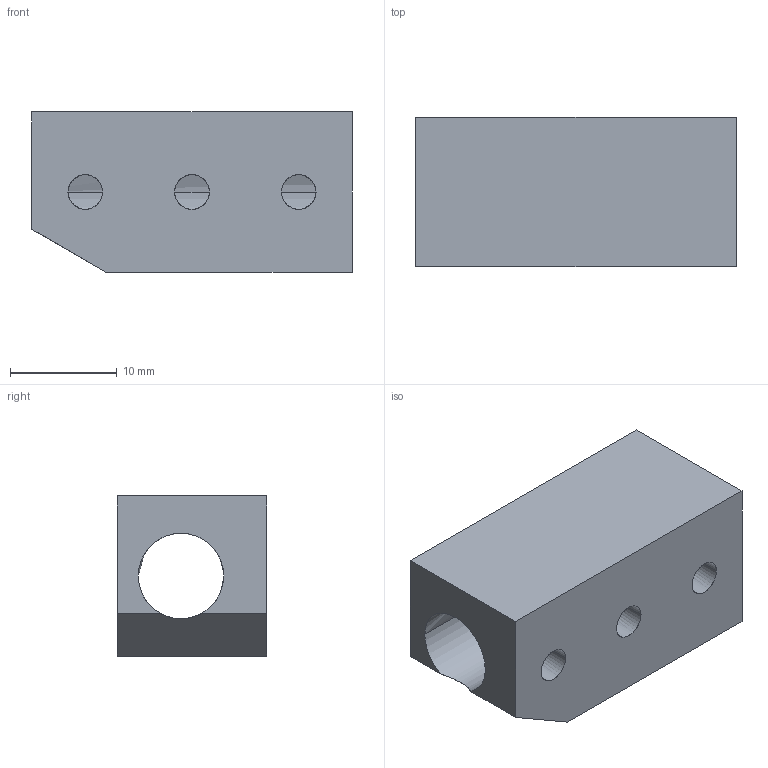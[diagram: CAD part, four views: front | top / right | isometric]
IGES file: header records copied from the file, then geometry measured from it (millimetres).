
Start section: START RECORD GO HERE.
Global section: file name: 1360.000.002.000.BASE_SIN_FIN.igs; native system: DASSAULT SYSTEMES CATIA Version 5-6 Release 2018 - www.3ds.com; preprocessor: V5-6R2018_5.28.6.0.03-10-2020.20.00; author: Pc; organization: DESKTOP-CAESKE4; date: 20241108.095751; units: millimetre
Bounding box: 30 x 14 x 15 mm (x, y, z)
Surface area: 2819.4 mm2 (no closed solid volume)
Topology: 0 solids, 0 shells, 15 faces, 90 edges, 90 vertices
Faces by surface type: revolution 8, plane 7
